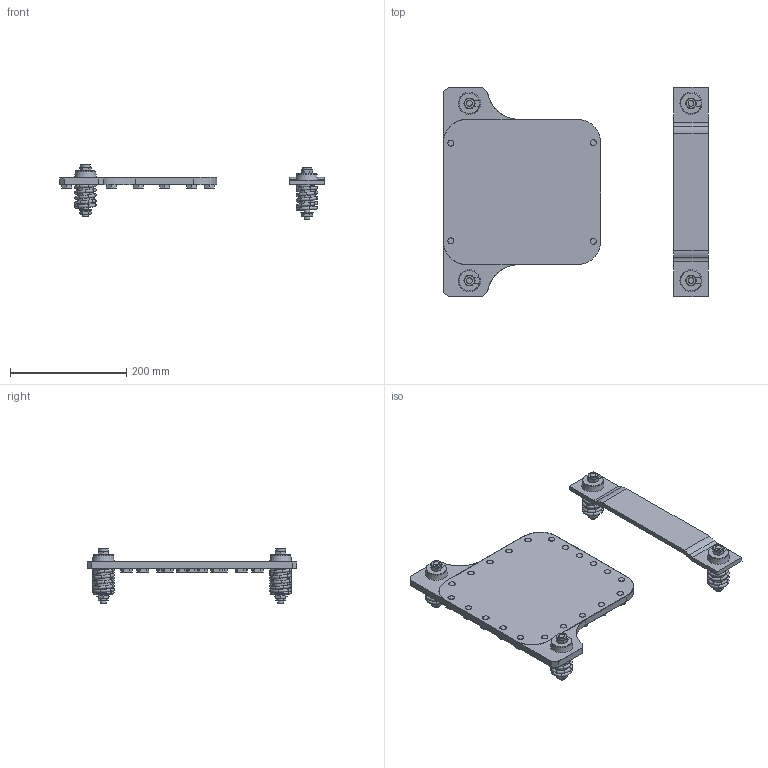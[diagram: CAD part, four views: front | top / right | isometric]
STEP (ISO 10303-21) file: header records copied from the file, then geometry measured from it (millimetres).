
FILE_DESCRIPTION(/* description */ (''),/* implementation_level */ '2;1');
FILE_NAME(/* name */ '6JE-6HE-6GE-6FE Bodenpl. STANDARD.stp',/* time_stamp */ '2024-06-03T15:53:10+02:00',/* author */ (''),/* organization */ (''),/* preprocessor_version */ 'ST-DEVELOPER v19.4',/* originating_system */ 'SIEMENS PLM Software NX2212.8901',/* authorisation */ '');
FILE_SCHEMA (('AUTOMOTIVE_DESIGN { 1 0 10303 214 3 1 1 1 }'));
Length unit declared in the file: millimetre
Products named in the file (3): 200682081ugm001_00; 200052448ugm001_02; 200682079ugm001_00
Assembly tree (2 placements, depth 2):
  200682079ugm001_00
    200052448ugm001_02
    200682081ugm001_00
Bounding box: 455.4 x 360 x 94.27 mm (x, y, z)
Volume: 1337219.7 mm3; surface area: 324264.4 mm2
Topology: 6 solids, 27 shells, 999 faces, 2371 edges, 1467 vertices
Faces by surface type: plane 423, cone 276, torus 164, cylinder 136
Full cylindrical faces by diameter (mm): 10 x41, 11 x21, 12.2 x8, 14.63 x2, 17 x4, 21 x4, 22 x4
Entity records: 27120 total; most frequent: CARTESIAN_POINT 6418, DIRECTION 4104, ORIENTED_EDGE 3974, EDGE_CURVE 1987, AXIS2_PLACEMENT_3D 1723, EDGE_LOOP 1388, VERTEX_POINT 1357, ADVANCED_FACE 995
